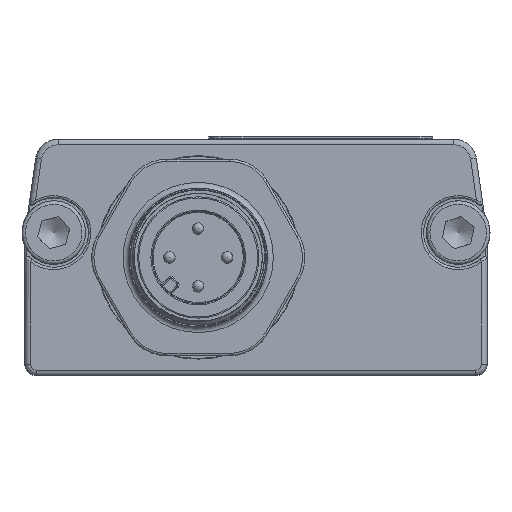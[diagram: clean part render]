
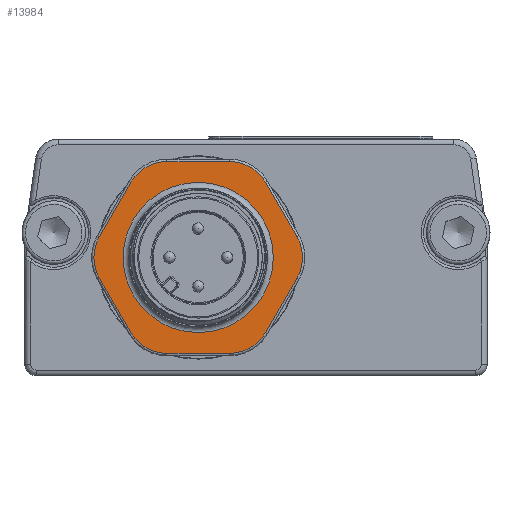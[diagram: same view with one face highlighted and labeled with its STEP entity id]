
A CAD part, front view. The second image highlights one B-rep face of the part: STEP entity #13984.
In plain terms, the highlighted planar face has unit normal (0, -1, 0).
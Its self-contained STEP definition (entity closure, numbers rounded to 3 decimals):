
#201=FACE_BOUND('',#2418,.T.);
#629=CIRCLE('',#14936,3.6);
#634=CIRCLE('',#14943,3.6);
#637=CIRCLE('',#14948,3.6);
#640=CIRCLE('',#14953,3.6);
#644=CIRCLE('',#14959,3.6);
#648=CIRCLE('',#14965,3.6);
#649=CIRCLE('',#14973,6.5);
#1079=PLANE('',#14972);
#1620=FACE_OUTER_BOUND('',#2417,.T.);
#2417=EDGE_LOOP('',(#10488,#10489,#10490,#10491,#10492,#10493,#10494,#10495,
#10496,#10497,#10498,#10499));
#2418=EDGE_LOOP('',(#10500));
#3671=LINE('',#25724,#4742);
#3672=LINE('',#25732,#4743);
#3673=LINE('',#25740,#4744);
#3674=LINE('',#25748,#4745);
#3676=LINE('',#25760,#4747);
#3677=LINE('',#25768,#4748);
#4742=VECTOR('',#17197,10.);
#4743=VECTOR('',#17208,10.);
#4744=VECTOR('',#17219,10.);
#4745=VECTOR('',#17230,10.);
#4747=VECTOR('',#17244,10.);
#4748=VECTOR('',#17255,10.);
#6053=VERTEX_POINT('',#25713);
#6054=VERTEX_POINT('',#25715);
#6056=VERTEX_POINT('',#25721);
#6057=VERTEX_POINT('',#25726);
#6058=VERTEX_POINT('',#25730);
#6059=VERTEX_POINT('',#25734);
#6060=VERTEX_POINT('',#25738);
#6061=VERTEX_POINT('',#25742);
#6062=VERTEX_POINT('',#25746);
#6063=VERTEX_POINT('',#25750);
#6065=VERTEX_POINT('',#25756);
#6067=VERTEX_POINT('',#25762);
#6069=VERTEX_POINT('',#25781);
#7638=EDGE_CURVE('',#6053,#6054,#629,.T.);
#7643=EDGE_CURVE('',#6054,#6056,#3671,.T.);
#7645=EDGE_CURVE('',#6056,#6057,#634,.T.);
#7647=EDGE_CURVE('',#6057,#6058,#3672,.T.);
#7649=EDGE_CURVE('',#6058,#6059,#637,.T.);
#7651=EDGE_CURVE('',#6059,#6060,#3673,.T.);
#7653=EDGE_CURVE('',#6060,#6061,#640,.T.);
#7655=EDGE_CURVE('',#6061,#6062,#3674,.T.);
#7658=EDGE_CURVE('',#6062,#6063,#644,.T.);
#7661=EDGE_CURVE('',#6063,#6065,#3676,.T.);
#7664=EDGE_CURVE('',#6065,#6067,#648,.T.);
#7665=EDGE_CURVE('',#6067,#6053,#3677,.T.);
#7672=EDGE_CURVE('',#6069,#6069,#649,.T.);
#10488=ORIENTED_EDGE('',*,*,#7638,.F.);
#10489=ORIENTED_EDGE('',*,*,#7665,.F.);
#10490=ORIENTED_EDGE('',*,*,#7664,.F.);
#10491=ORIENTED_EDGE('',*,*,#7661,.F.);
#10492=ORIENTED_EDGE('',*,*,#7658,.F.);
#10493=ORIENTED_EDGE('',*,*,#7655,.F.);
#10494=ORIENTED_EDGE('',*,*,#7653,.F.);
#10495=ORIENTED_EDGE('',*,*,#7651,.F.);
#10496=ORIENTED_EDGE('',*,*,#7649,.F.);
#10497=ORIENTED_EDGE('',*,*,#7647,.F.);
#10498=ORIENTED_EDGE('',*,*,#7645,.F.);
#10499=ORIENTED_EDGE('',*,*,#7643,.F.);
#10500=ORIENTED_EDGE('',*,*,#7672,.F.);
#13984=ADVANCED_FACE('',(#1620,#201),#1079,.T.);
#14936=AXIS2_PLACEMENT_3D('',#25716,#17186,#17187);
#14943=AXIS2_PLACEMENT_3D('',#25728,#17202,#17203);
#14948=AXIS2_PLACEMENT_3D('',#25736,#17213,#17214);
#14953=AXIS2_PLACEMENT_3D('',#25744,#17224,#17225);
#14959=AXIS2_PLACEMENT_3D('',#25754,#17237,#17238);
#14965=AXIS2_PLACEMENT_3D('',#25766,#17251,#17252);
#14972=AXIS2_PLACEMENT_3D('',#25780,#17272,#17273);
#14973=AXIS2_PLACEMENT_3D('',#25782,#17274,#17275);
#17186=DIRECTION('center_axis',(0.,1.,0.));
#17187=DIRECTION('ref_axis',(-0.5,0.,-0.866));
#17197=DIRECTION('',(-0.5,0.,0.866));
#17202=DIRECTION('center_axis',(0.,1.,0.));
#17203=DIRECTION('ref_axis',(-1.,0.,0.));
#17208=DIRECTION('',(0.5,0.,0.866));
#17213=DIRECTION('center_axis',(0.,1.,0.));
#17214=DIRECTION('ref_axis',(-0.5,0.,0.866));
#17219=DIRECTION('',(1.,0.,0.));
#17224=DIRECTION('center_axis',(0.,1.,0.));
#17225=DIRECTION('ref_axis',(0.5,0.,0.866));
#17230=DIRECTION('',(0.5,0.,-0.866));
#17237=DIRECTION('center_axis',(0.,1.,0.));
#17238=DIRECTION('ref_axis',(1.,0.,0.));
#17244=DIRECTION('',(-0.5,0.,-0.866));
#17251=DIRECTION('center_axis',(0.,1.,0.));
#17252=DIRECTION('ref_axis',(0.5,0.,-0.866));
#17255=DIRECTION('',(-1.,0.,0.));
#17272=DIRECTION('center_axis',(0.,-1.,0.));
#17273=DIRECTION('ref_axis',(-1.,0.,0.));
#17274=DIRECTION('center_axis',(0.,-1.,0.));
#17275=DIRECTION('ref_axis',(0.,0.,
1.));
#25713=CARTESIAN_POINT('',(-46.428,-12.9,10.329));
#25715=CARTESIAN_POINT('',(-49.546,-12.9,12.129));
#25716=CARTESIAN_POINT('Origin',(-46.428,-12.9,13.929));
#25721=CARTESIAN_POINT('',(-52.26,-12.9,16.829));
#25724=CARTESIAN_POINT('',(-52.13,-12.9,16.604));
#25726=CARTESIAN_POINT('',(-52.26,-12.9,20.429));
#25728=CARTESIAN_POINT('Origin',(-49.142,-12.9,18.629));
#25730=CARTESIAN_POINT('',(-49.546,-12.9,25.129));
#25732=CARTESIAN_POINT('',(-49.676,-12.9,24.904));
#25734=CARTESIAN_POINT('',(-46.428,-12.9,26.929));
#25736=CARTESIAN_POINT('Origin',(-46.428,-12.9,23.329));
#25738=CARTESIAN_POINT('',(-41.001,-12.9,26.929));
#25740=CARTESIAN_POINT('',(-41.261,-12.9,26.929));
#25742=CARTESIAN_POINT('',(-37.884,-12.9,25.129));
#25744=CARTESIAN_POINT('Origin',(-41.001,-12.9,23.329));
#25746=CARTESIAN_POINT('',(-35.17,-12.9,20.429));
#25748=CARTESIAN_POINT('',(-35.3,-12.9,20.654));
#25750=CARTESIAN_POINT('',(-35.17,-12.9,16.829));
#25754=CARTESIAN_POINT('Origin',(-38.288,-12.9,18.629));
#25756=CARTESIAN_POINT('',(-37.884,-12.9,12.129));
#25760=CARTESIAN_POINT('',(-37.754,-12.9,12.354));
#25762=CARTESIAN_POINT('',(-41.001,-12.9,10.329));
#25766=CARTESIAN_POINT('Origin',(-41.001,-12.9,13.929));
#25768=CARTESIAN_POINT('',(-46.169,-12.9,10.329));
#25780=CARTESIAN_POINT('Origin',(-43.715,-12.9,18.629));
#25781=CARTESIAN_POINT('',(-50.215,-12.9,18.629));
#25782=CARTESIAN_POINT('Origin',(-43.715,-12.9,18.629));
